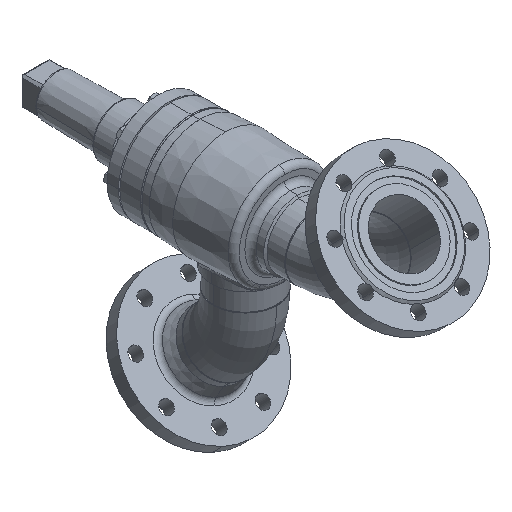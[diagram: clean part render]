
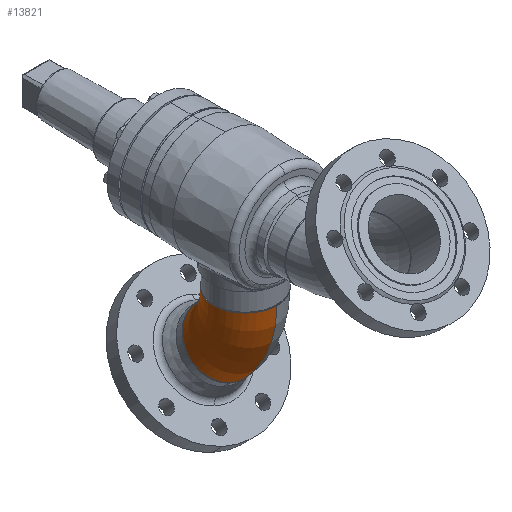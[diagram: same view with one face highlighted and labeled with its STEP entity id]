
A CAD part, isometric view. The second image highlights one B-rep face of the part: STEP entity #13821.
In plain terms, the highlighted toroidal (fillet/blend) face has major radius 114 mm and minor radius 44.45 mm.
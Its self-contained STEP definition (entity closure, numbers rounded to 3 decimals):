
#16927 = EDGE_LOOP ( 'NONE', ( #10212, #7118, #873, #13041 ) ) ;
#609 = CIRCLE ( 'NONE', #610, 44.45 ) ;
#610 = AXIS2_PLACEMENT_3D ( 'NONE', #615, #616, #617 ) ;
#615 = CARTESIAN_POINT ( 'NONE',  ( 0., 0., 0. ) ) ;
#616 = DIRECTION ( 'NONE',  ( 1., 0., 0. ) ) ;
#617 = DIRECTION ( 'NONE',  ( 0., 0., -1. ) ) ;
#873 = ORIENTED_EDGE ( 'NONE', *, *, #18151, .T. ) ;
#17577 = VERTEX_POINT ( 'NONE', #18418 ) ;
#18151 = EDGE_CURVE ( 'NONE', #17577, #15742, #609, .T. ) ;
#18418 = CARTESIAN_POINT ( 'NONE',  ( 0., 44.45, 0. ) ) ;
#2516 = EDGE_CURVE ( 'NONE', #11574, #15742, #11434, .T. ) ;
#3970 = VERTEX_POINT ( 'NONE', #13268 ) ;
#5307 = CARTESIAN_POINT ( 'NONE',  ( 49.179, -64.821, 0. ) ) ;
#5341 = CIRCLE ( 'NONE', #5342, 44.45 ) ;
#5342 = AXIS2_PLACEMENT_3D ( 'NONE', #5343, #5344, #5345 ) ;
#5343 = CARTESIAN_POINT ( 'NONE',  ( 80.61, -33.39, 0. ) ) ;
#5344 = DIRECTION ( 'NONE',  ( 0.707, -0.707, 0. ) ) ;
#5345 = DIRECTION ( 'NONE',  ( 0., 0., -1. ) ) ;
#7118 = ORIENTED_EDGE ( 'NONE', *, *, #16108, .T. ) ;
#10212 = ORIENTED_EDGE ( 'NONE', *, *, #11630, .F. ) ;
#11148 = FACE_OUTER_BOUND ( 'NONE', #16927, .T. ) ;
#11149 = TOROIDAL_SURFACE ( 'NONE', #11150, 114., 44.45 ) ;
#11150 = AXIS2_PLACEMENT_3D ( 'NONE', #11151, #11152, #11153 ) ;
#11151 = CARTESIAN_POINT ( 'NONE',  ( 0., -114., 0. ) ) ;
#11152 = DIRECTION ( 'NONE',  ( 0., 0., 1. ) ) ;
#11153 = DIRECTION ( 'NONE',  ( 1., 0., 0. ) ) ;
#11434 = CIRCLE ( 'NONE', #11435, 69.55 ) ;
#11435 = AXIS2_PLACEMENT_3D ( 'NONE', #11436, #11437, #11438 ) ;
#11436 = CARTESIAN_POINT ( 'NONE',  ( 0., -114., 0. ) ) ;
#11437 = DIRECTION ( 'NONE',  ( 0., 0., 1. ) ) ;
#11438 = DIRECTION ( 'NONE',  ( 1., 0., 0. ) ) ;
#11574 = VERTEX_POINT ( 'NONE', #5307 ) ;
#11630 = EDGE_CURVE ( 'NONE', #3970, #11574, #5341, .T. ) ;
#13041 = ORIENTED_EDGE ( 'NONE', *, *, #2516, .F. ) ;
#13268 = CARTESIAN_POINT ( 'NONE',  ( 112.041, -1.959, 0. ) ) ;
#13821 = ADVANCED_FACE ( 'NONE', ( #11148 ), #11149, .T. ) ;
#14542 = CARTESIAN_POINT ( 'NONE',  ( 0., -44.45, 0. ) ) ;
#14943 = CIRCLE ( 'NONE', #14944, 158.45 ) ;
#14944 = AXIS2_PLACEMENT_3D ( 'NONE', #14945, #14946, #14947 ) ;
#14945 = CARTESIAN_POINT ( 'NONE',  ( 0., -114., 0. ) ) ;
#14946 = DIRECTION ( 'NONE',  ( 0., 0., 1. ) ) ;
#14947 = DIRECTION ( 'NONE',  ( 1., 0., 0. ) ) ;
#15742 = VERTEX_POINT ( 'NONE', #14542 ) ;
#16108 = EDGE_CURVE ( 'NONE', #3970, #17577, #14943, .T. ) ;
